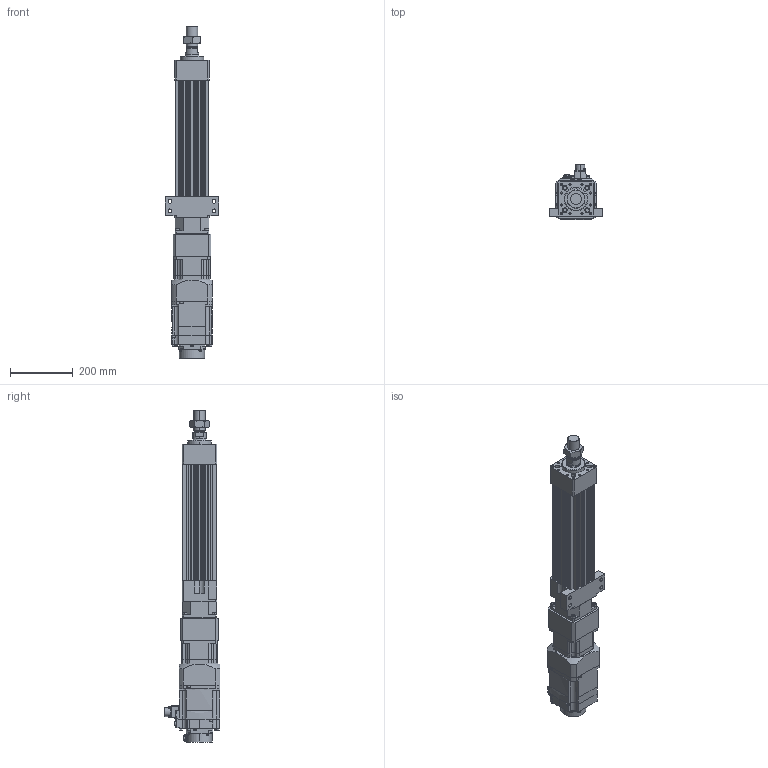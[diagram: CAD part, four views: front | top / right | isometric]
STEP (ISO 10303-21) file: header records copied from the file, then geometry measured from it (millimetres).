
FILE_DESCRIPTION (( 'STEP AP203' ), '1' );
FILE_NAME ('HES110NS(HS)-S200-W015G00-M-FFC.STEP', '2026-06-10T06:02:10', ( 'tms' ), ( '' ), 'SwSTEP 2.0', 'SolidWorks 2013', '' );
FILE_SCHEMA (( 'CONFIG_CONTROL_DESIGN' ));
Length unit declared in the file: millimetre
Products named in the file (8): HG-SR152B; AB1151; HES110-FFC-200; HES110-M-ROD-200; M36X1.5P; AB1152; HES110-S-G120; HES110NS(HS)-S200-W015G00-M-FFC
Assembly tree (7 placements, depth 2):
  HES110NS(HS)-S200-W015G00-M-FFC
    HES110-FFC-200
    HES110-M-ROD-200
    M36X1.5P
    HES110-S-G120
    AB1151
    AB1152
    HG-SR152B
Bounding box: 170 x 177.49 x 1056 mm (x, y, z)
Volume: 7212335.2 mm3; surface area: 919250.7 mm2
Topology: 5 solids, 12 shells, 1233 faces, 3122 edges, 2017 vertices
Faces by surface type: cylinder 570, plane 555, cone 94, bspline 10, torus 4
Entity records: 38913 total; most frequent: CARTESIAN_POINT 7463, DIRECTION 6733, ORIENTED_EDGE 6168, EDGE_CURVE 3094, AXIS2_PLACEMENT_3D 2500, VERTEX_POINT 2017, LINE 1733, VECTOR 1733
